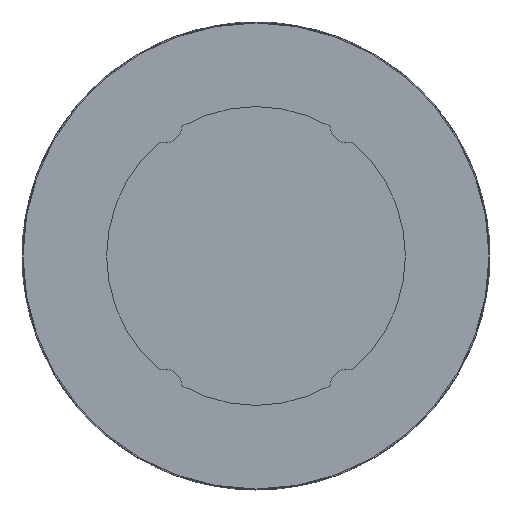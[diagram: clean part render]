
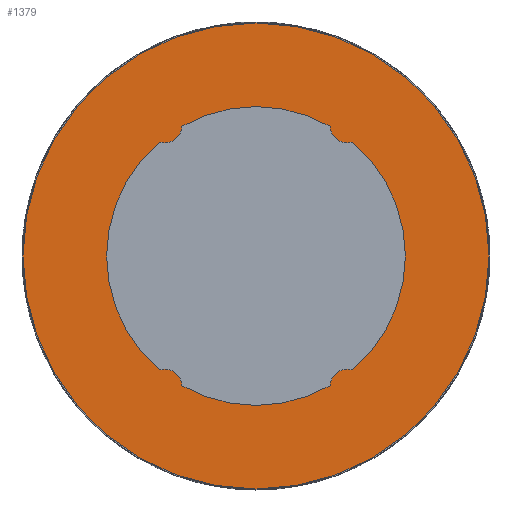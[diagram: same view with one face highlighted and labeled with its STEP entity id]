
A CAD part, left-side view. The second image highlights one B-rep face of the part: STEP entity #1379.
In plain terms, the highlighted planar face has unit normal (-1, 0, 0).
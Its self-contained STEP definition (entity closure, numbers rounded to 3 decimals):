
#1123=CARTESIAN_POINT('',(0.0,-7.438,-13.026));
#1124=VERTEX_POINT('',#1123);
#1131=CARTESIAN_POINT('',(0.0,-9.696,-11.445));
#1132=VERTEX_POINT('',#1131);
#1133=CARTESIAN_POINT('',(0.0,-9.186,-13.119));
#1134=DIRECTION('',(1.,0.0,0.0));
#1135=DIRECTION('',(0.0,0.999,0.053));
#1136=AXIS2_PLACEMENT_3D('',#1133,#1134,#1135);
#1137=CIRCLE('',#1136,1.75);
#1138=EDGE_CURVE('',#1124,#1132,#1137,.T.);
#1165=CARTESIAN_POINT('',(0.0,9.696,-11.445));
#1166=VERTEX_POINT('',#1165);
#1173=CARTESIAN_POINT('',(0.0,7.438,-13.026));
#1174=VERTEX_POINT('',#1173);
#1175=CARTESIAN_POINT('',(0.0,9.186,-13.119));
#1176=DIRECTION('',(1.0,0.0,0.0));
#1177=DIRECTION('',(0.0,0.292,0.957));
#1178=AXIS2_PLACEMENT_3D('',#1175,#1176,#1177);
#1179=CIRCLE('',#1178,1.75);
#1180=EDGE_CURVE('',#1166,#1174,#1179,.T.);
#1207=CARTESIAN_POINT('',(0.0,7.438,13.026));
#1208=VERTEX_POINT('',#1207);
#1215=CARTESIAN_POINT('',(0.0,9.696,11.445));
#1216=VERTEX_POINT('',#1215);
#1217=CARTESIAN_POINT('',(0.0,9.186,13.119));
#1218=DIRECTION('',(1.,0.0,0.0));
#1219=DIRECTION('',(0.0,-0.999,-0.053));
#1220=AXIS2_PLACEMENT_3D('',#1217,#1218,#1219);
#1221=CIRCLE('',#1220,1.75);
#1222=EDGE_CURVE('',#1208,#1216,#1221,.T.);
#1249=CARTESIAN_POINT('',(0.0,-9.696,11.445));
#1250=VERTEX_POINT('',#1249);
#1257=CARTESIAN_POINT('',(0.0,-7.438,13.026));
#1258=VERTEX_POINT('',#1257);
#1259=CARTESIAN_POINT('',(0.0,-9.186,13.119));
#1260=DIRECTION('',(1.0,0.0,0.0));
#1261=DIRECTION('',(0.0,-0.292,-0.957));
#1262=AXIS2_PLACEMENT_3D('',#1259,#1260,#1261);
#1263=CIRCLE('',#1262,1.75);
#1264=EDGE_CURVE('',#1250,#1258,#1263,.T.);
#1289=CARTESIAN_POINT('',(0.,0.0,0.));
#1290=DIRECTION('',(-1.0,0.0,0.0));
#1291=DIRECTION('',(0.0,0.0,1.0));
#1292=AXIS2_PLACEMENT_3D('',#1289,#1290,#1291);
#1293=CIRCLE('',#1292,15.);
#1294=EDGE_CURVE('',#1258,#1208,#1293,.T.);
#1313=CARTESIAN_POINT('',(0.,0.0,0.));
#1314=DIRECTION('',(-1.0,0.0,0.0));
#1315=DIRECTION('',(0.0,0.0,1.0));
#1316=AXIS2_PLACEMENT_3D('',#1313,#1314,#1315);
#1317=CIRCLE('',#1316,15.);
#1318=EDGE_CURVE('',#1216,#1166,#1317,.T.);
#1337=CARTESIAN_POINT('',(0.,0.0,0.));
#1338=DIRECTION('',(-1.0,0.0,0.0));
#1339=DIRECTION('',(0.0,0.0,1.0));
#1340=AXIS2_PLACEMENT_3D('',#1337,#1338,#1339);
#1341=CIRCLE('',#1340,15.);
#1342=EDGE_CURVE('',#1174,#1124,#1341,.T.);
#1347=CARTESIAN_POINT('',(0.,0.0,19.2));
#1348=DIRECTION('',(-1.0,0.0,0.0));
#1349=DIRECTION('',(0.0,0.0,1.0));
#1350=AXIS2_PLACEMENT_3D('',#1347,#1348,#1349);
#1351=PLANE('',#1350);
#1352=CARTESIAN_POINT('',(0.,0.0,23.4));
#1353=VERTEX_POINT('',#1352);
#1354=CARTESIAN_POINT('',(0.,0.0,0.));
#1355=DIRECTION('',(-1.0,0.0,0.0));
#1356=DIRECTION('',(0.0,0.0,1.0));
#1357=AXIS2_PLACEMENT_3D('',#1354,#1355,#1356);
#1358=CIRCLE('',#1357,23.4);
#1359=EDGE_CURVE('',#1353,#1353,#1358,.T.);
#1360=ORIENTED_EDGE('',*,*,#1359,.T.);
#1361=EDGE_LOOP('',(#1360));
#1362=FACE_OUTER_BOUND('',#1361,.T.);
#1363=ORIENTED_EDGE('',*,*,#1294,.F.);
#1364=ORIENTED_EDGE('',*,*,#1264,.F.);
#1365=CARTESIAN_POINT('',(0.,0.0,0.));
#1366=DIRECTION('',(-1.0,0.0,0.0));
#1367=DIRECTION('',(0.0,0.0,1.0));
#1368=AXIS2_PLACEMENT_3D('',#1365,#1366,#1367);
#1369=CIRCLE('',#1368,15.);
#1370=EDGE_CURVE('',#1132,#1250,#1369,.T.);
#1371=ORIENTED_EDGE('',*,*,#1370,.F.);
#1372=ORIENTED_EDGE('',*,*,#1138,.F.);
#1373=ORIENTED_EDGE('',*,*,#1342,.F.);
#1374=ORIENTED_EDGE('',*,*,#1180,.F.);
#1375=ORIENTED_EDGE('',*,*,#1318,.F.);
#1376=ORIENTED_EDGE('',*,*,#1222,.F.);
#1377=EDGE_LOOP('',(#1363,#1364,#1371,#1372,#1373,#1374,#1375,#1376));
#1378=FACE_BOUND('',#1377,.T.);
#1379=ADVANCED_FACE('',(#1362,#1378),#1351,.T.);
